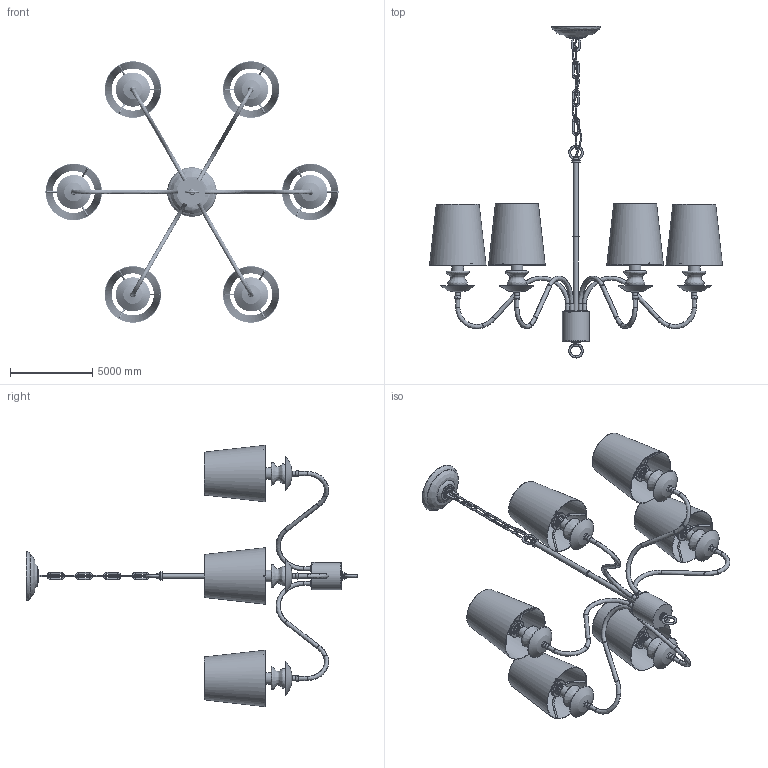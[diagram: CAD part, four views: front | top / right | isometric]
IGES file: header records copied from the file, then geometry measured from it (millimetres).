
Global section: file name: Maglio Chandelier-6heads; native system: AutoCAD 2022 - 简体中文 (Simplified Chinese),62HAuto; preprocessor: desk Translation Framework DWG producer (atf_dwg_producer); organization: unknown; date: 20251114.100547; units: inch
Bounding box: 17807.93 x 20169.88 x 15881.94 mm (x, y, z)
Volume: 18253471771.4 mm3; surface area: 788439788.6 mm2
Topology: 131 solids, 131 shells, 861 faces, 1830 edges, 1223 vertices
Faces by surface type: bspline 861
